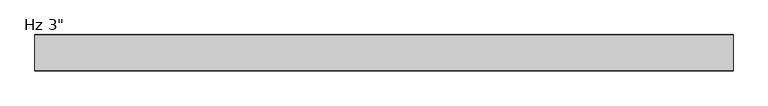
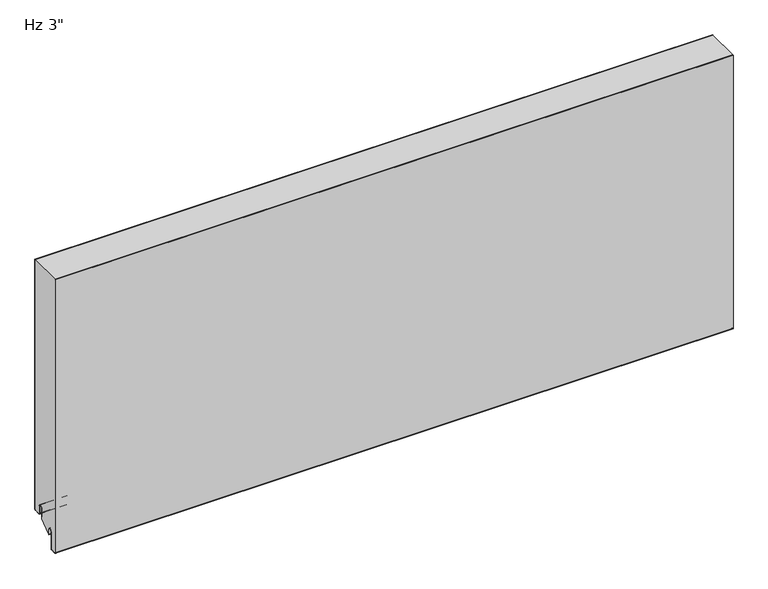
"""IFC4 building model written with IfcOpenShell, lengths in millimetres: plate geometry."""

from ifc_helpers import new_model, si_unit, point, frame, frame_2d, origin, place, context, project, spatial, polyline, circle_curve, trimmed, segment, composite_curve, outline, extrude, source, transform, mapped, element, save


def plate_1aa83632(model_context):
    return source(origin(), model_context, "Body", "SweptSolid", [
        extrude(outline(composite_curve([segment(trimmed(circle_curve(frame_2d((-21.43125, 19.05)), 4.96875), [point((-16.4625, 19.05))], [point((-26.4, 19.05))], True, "CARTESIAN"), True, "CONTINUOUS"), segment(polyline([(-26.4, 19.05), (-26.4, -3.1323422), (-49.2157227, -23.01875), (-50.8, -23.01875), (-50.8, -13.5080174), (-51.59375, -13.5080174), (-51.3875, -11.9205174)]), True, "CONTINUOUS"), segment(trimmed(circle_curve(frame_2d((-56.35625, -11.9205174)), 4.96875), [point((-51.3875, -11.9205174))], [point((-61.325, -11.9205174))], True, "CARTESIAN"), True, "CONTINUOUS"), segment(polyline([(-61.325, -11.9205174), (-61.325, -50.1038221)]), True, "CONTINUOUS"), segment(trimmed(circle_curve(frame_2d((-62.70625, -50.1038221)), 1.38125), [point((-61.325, -50.1038221))], [point((-62.633961, -51.4831791))], False, "CARTESIAN"), True, "CONTINUOUS"), segment(polyline([(-62.633961, -51.4831791), (-73.746461, -52.0655606)]), True, "CONTINUOUS"), segment(trimmed(circle_curve(frame_2d((-73.81875, -50.6862035)), 1.38125), [point((-73.746461, -52.0655606))], [point((-75.2, -50.6862035))], False, "CARTESIAN"), True, "CONTINUOUS"), segment(polyline([(-75.2, -50.6862035), (-75.2, 571.2), (-1.0, 571.2), (-1.0, 3.175)]), True, "CONTINUOUS"), segment(trimmed(circle_curve(frame_2d((-2.38125, 3.175)), 1.38125), [point((-1.0, 3.175))], [point((-2.38125, 1.79375))], False, "CARTESIAN"), True, "CONTINUOUS"), segment(polyline([(-2.38125, 1.79375), (-15.08125, 1.79375)]), True, "CONTINUOUS"), segment(trimmed(circle_curve(frame_2d((-15.08125, 3.175)), 1.38125), [point((-15.08125, 1.79375))], [point((-16.4625, 3.175))], False, "CARTESIAN"), True, "CONTINUOUS"), segment(polyline([(-16.4625, 3.175), (-16.4625, 19.05)]), True, "CONTINUOUS")], self_intersect=False)), frame((-730.0, 0.0, 0.0), z_axis=(1.0, 0.0, 0.0), x_axis=(0.0, 1.0, 0.0)), (0.0, 0.0, 1.0), 1460.0),
        extrude(outline(composite_curve([segment(polyline([(-25.4, 0.79375), (-26.4, 0.79375), (-26.4, 19.05)]), True, "CONTINUOUS"), segment(trimmed(circle_curve(frame_2d((-21.43125, 19.05)), 4.96875), [point((-26.4, 19.05))], [point((-16.4625, 19.05))], False, "CARTESIAN"), True, "CONTINUOUS"), segment(polyline([(-16.4625, 19.05), (-16.4625, 3.175)]), True, "CONTINUOUS"), segment(trimmed(circle_curve(frame_2d((-15.08125, 3.175)), 1.38125), [point((-16.4625, 3.175))], [point((-15.08125, 1.79375))], True, "CARTESIAN"), True, "CONTINUOUS"), segment(polyline([(-15.08125, 1.79375), (-2.38125, 1.79375)]), True, "CONTINUOUS"), segment(trimmed(circle_curve(frame_2d((-2.38125, 3.175)), 1.38125), [point((-2.38125, 1.79375))], [point((-1.0, 3.175))], True, "CARTESIAN"), True, "CONTINUOUS"), segment(polyline([(-1.0, 3.175), (-1.0, 571.2), (0.0, 571.2), (0.0, 3.175)]), True, "CONTINUOUS"), segment(trimmed(circle_curve(frame_2d((-2.38125, 3.175)), 2.38125), [point((0.0, 3.175))], [point((-2.38125, 0.79375))], False, "CARTESIAN"), True, "CONTINUOUS"), segment(polyline([(-2.38125, 0.79375), (-15.08125, 0.79375)]), True, "CONTINUOUS"), segment(trimmed(circle_curve(frame_2d((-15.08125, 3.175)), 2.38125), [point((-15.08125, 0.79375))], [point((-17.4625, 3.175))], False, "CARTESIAN"), True, "CONTINUOUS"), segment(polyline([(-17.4625, 3.175), (-17.4625, 19.05)]), True, "CONTINUOUS"), segment(trimmed(circle_curve(frame_2d((-21.43125, 19.05)), 3.96875), [point((-17.4625, 19.05))], [point((-25.4, 19.05))], True, "CARTESIAN"), True, "CONTINUOUS"), segment(polyline([(-25.4, 19.05), (-25.4, 0.79375)]), True, "CONTINUOUS")], self_intersect=False)), frame((-730.0, 0.0, 0.0), z_axis=(1.0, 0.0, 0.0), x_axis=(0.0, 1.0, 0.0)), (0.0, 0.0, 1.0), 1460.0),
        extrude(outline(composite_curve([segment(trimmed(circle_curve(frame_2d((-51.59375, -23.2314549)), 0.79375), [point((-50.8, -23.2314549))], [point((-52.3875, -23.2314549))], False, "CARTESIAN"), True, "CONTINUOUS"), segment(polyline([(-52.3875, -23.2314549), (-52.3875, -11.9205174)]), True, "CONTINUOUS"), segment(trimmed(circle_curve(frame_2d((-56.35625, -11.9205174)), 3.96875), [point((-52.3875, -11.9205174))], [point((-60.325, -11.9205174))], True, "CARTESIAN"), True, "CONTINUOUS"), segment(polyline([(-60.325, -11.9205174), (-60.325, -50.1038221)]), True, "CONTINUOUS"), segment(trimmed(circle_curve(frame_2d((-62.70625, -50.1038221)), 2.38125), [point((-60.325, -50.1038221))], [point((-62.581625, -52.4818086))], False, "CARTESIAN"), True, "CONTINUOUS"), segment(polyline([(-62.581625, -52.4818086), (-73.694125, -53.0641901)]), True, "CONTINUOUS"), segment(trimmed(circle_curve(frame_2d((-73.81875, -50.6862035)), 2.38125), [point((-73.694125, -53.0641901))], [point((-76.2, -50.6862035))], False, "CARTESIAN"), True, "CONTINUOUS"), segment(polyline([(-76.2, -50.6862035), (-76.2, 571.2), (-75.2, 571.2), (-75.2, -50.6862035)]), True, "CONTINUOUS"), segment(trimmed(circle_curve(frame_2d((-73.81875, -50.6862035)), 1.38125), [point((-75.2, -50.6862035))], [point((-73.746461, -52.0655606))], True, "CARTESIAN"), True, "CONTINUOUS"), segment(polyline([(-73.746461, -52.0655606), (-62.633961, -51.4831791)]), True, "CONTINUOUS"), segment(trimmed(circle_curve(frame_2d((-62.70625, -50.1038221)), 1.38125), [point((-62.633961, -51.4831791))], [point((-61.325, -50.1038221))], True, "CARTESIAN"), True, "CONTINUOUS"), segment(polyline([(-61.325, -50.1038221), (-61.325, -11.9205174)]), True, "CONTINUOUS"), segment(trimmed(circle_curve(frame_2d((-56.35625, -11.9205174)), 4.96875), [point((-61.325, -11.9205174))], [point((-51.3875, -11.9205174))], False, "CARTESIAN"), True, "CONTINUOUS"), segment(polyline([(-51.3875, -11.9205174), (-51.59375, -13.5080174), (-50.8, -13.5080174), (-50.8, -23.2314549)]), True, "CONTINUOUS")], self_intersect=False)), frame((-730.0, 0.0, 0.0), z_axis=(1.0, 0.0, 0.0), x_axis=(0.0, 1.0, 0.0)), (0.0, 0.0, 1.0), 1460.0),
    ])


if __name__ == "__main__":
    model = new_model("IFC4")
    model_context = context("Model", 3, world=origin())
    ifc_project = project(units=[si_unit("LENGTHUNIT", "METRE", prefix="MILLI")], contexts=[model_context])
    site = spatial("IfcSite", under=ifc_project)
    building = spatial("IfcBuilding", under=site)
    placement = place(None, origin())
    plate_shape = plate_1aa83632(model_context)
    element("IfcPlate", 1, ObjectType="KIP-36-DWTR-R19-CP-Hz-F : Hz 3\"", at=placement, inside=building, context=model_context, shape_type="MappedRepresentation", body=[
        mapped(plate_shape, transform((0.0, 0.0, 0.0), x_axis=(1.0, 0.0, 0.0), y_axis=(0.0, 1.0, 0.0), z_axis=(0.0, 0.0, 1.0))),
    ])
    save(model, "model.ifc")
